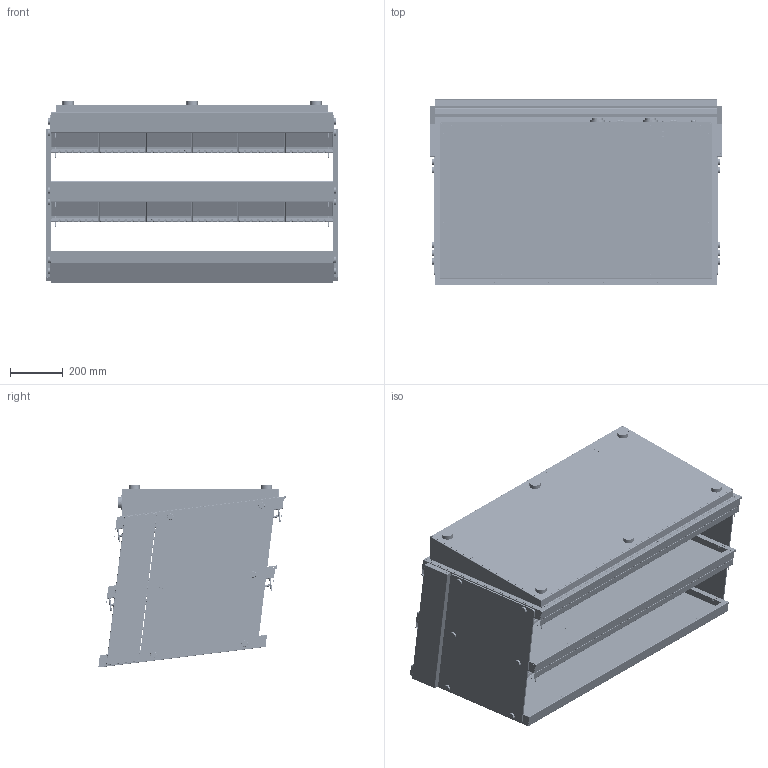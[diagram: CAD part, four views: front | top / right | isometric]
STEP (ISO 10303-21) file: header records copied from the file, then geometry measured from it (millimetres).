
FILE_DESCRIPTION (( 'STEP AP214' ), '1' );
FILE_NAME ('pres_CBINL.STEP', '2024-12-23T16:14:00', ( '' ), ( '' ), 'SwSTEP 2.0', 'SolidWorks 2025', '' );
FILE_SCHEMA (( 'AUTOMOTIVE_DESIGN' ));
Length unit declared in the file: millimetre
Products named in the file (1): pres_CBINL
Bounding box: 1106.2 x 706.92 x 690.58 mm (x, y, z)
Volume: 7880913.8 mm3; surface area: 13544796.2 mm2
Topology: 128 solids, 128 shells, 8678 faces, 22240 edges, 13704 vertices
Faces by surface type: plane 3858, cylinder 3566, bspline 597, torus 364, sphere 222, cone 71
Entity records: 415460 total; most frequent: CARTESIAN_POINT 203182, ORIENTED_EDGE 44414, DIRECTION 42085, EDGE_CURVE 22207, AXIS2_PLACEMENT_3D 15510, VERTEX_POINT 13688, VECTOR 11065, LINE 11065
